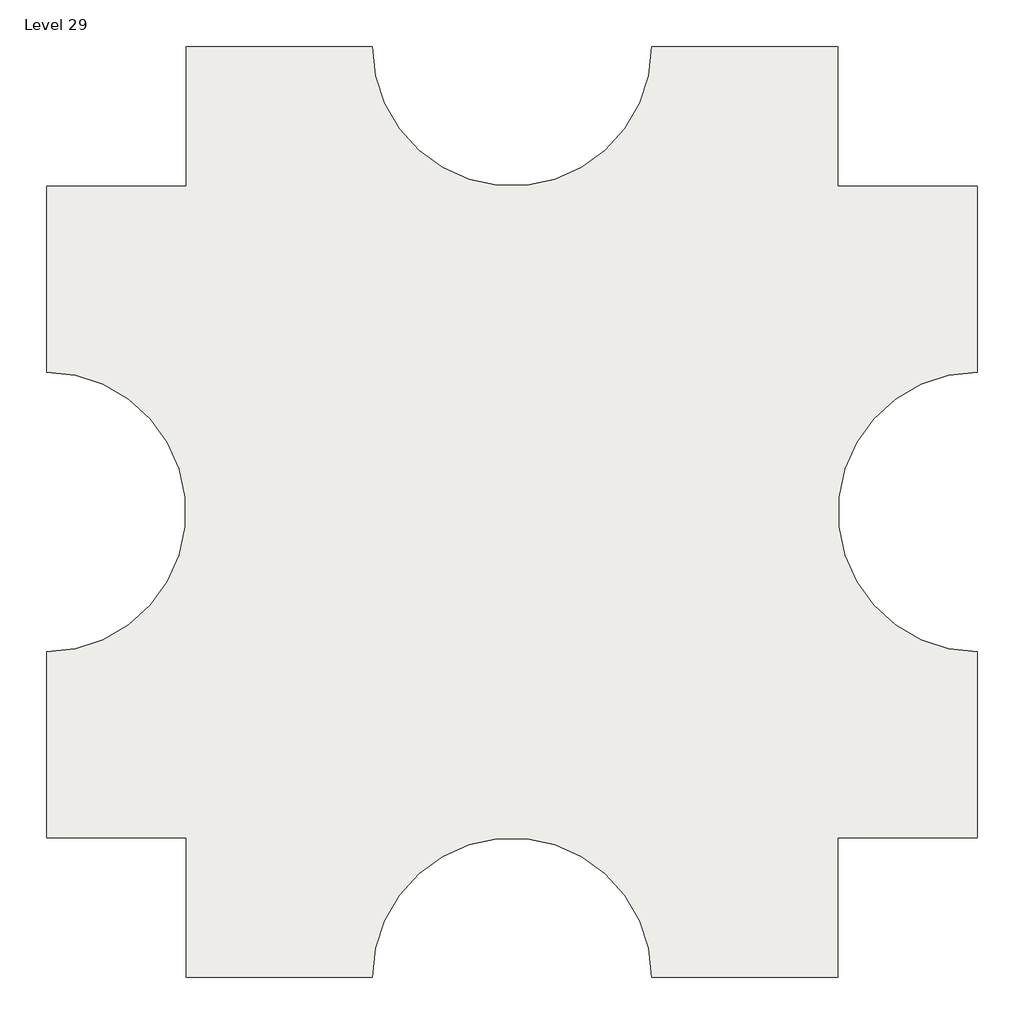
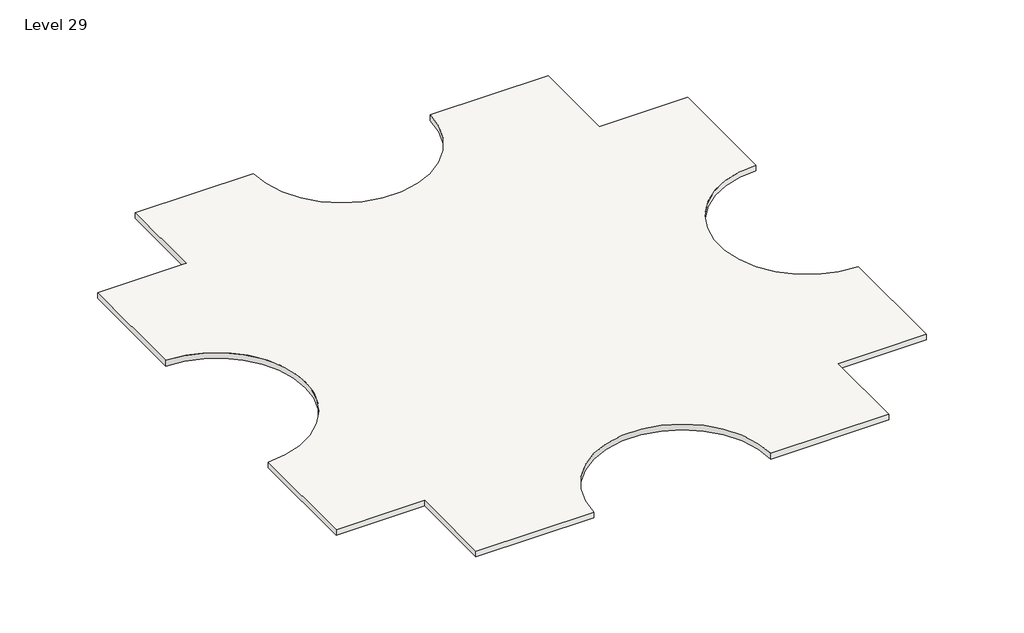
# One storey: 2 slabs.
"""IFC4 building model written with IfcOpenShell, lengths in millimetres."""

import ifcopenshell
import ifcopenshell.guid

model = None  # the IFC model being written
_history = None  # IfcOwnerHistory: only IFC2X3 demands one
_inside = {}  # id of a spatial element -> (the spatial element, [elements in it])
_under = {}  # id of a project, library or spatial element -> (it, [spatial elements below it])
_declared = {}  # id of a project -> (the project, [libraries it declares])
_typed = {}  # id of a type object -> (the type object, [elements of that type])
_made_of = {}  # id of a material, layer set ... -> (it, [elements and type objects made of it])


def new_model(schema):
    """Start an empty IFC model of exactly this schema.

    Asked for "IFC4X3", IfcOpenShell would pick the latest addendum, in which some entities
    have other attributes; the version numbers below select the first issue.
    IFC2X3 requires an IfcOwnerHistory on every rooted entity: one is made here for all.
    """
    global model, _history
    if schema == "IFC4X3":
        model = ifcopenshell.file(schema_version=(4, 3, 0, 0))
    else:
        model = ifcopenshell.file(schema=schema)
    _inside.clear()
    _under.clear()
    _declared.clear()
    _typed.clear()
    _made_of.clear()
    _history = None
    if model.schema == "IFC2X3":
        org = make("IfcOrganization", Name="unknown")
        user = make(
            "IfcPersonAndOrganization",
            ThePerson=make("IfcPerson", FamilyName="unknown"),
            TheOrganization=org,
        )
        app = make(
            "IfcApplication",
            ApplicationDeveloper=org,
            Version="unknown",
            ApplicationFullName="unknown",
            ApplicationIdentifier="unknown",
        )
        _history = make(
            "IfcOwnerHistory",
            OwningUser=user,
            OwningApplication=app,
            ChangeAction="ADDED",
            CreationDate=0,
        )
    return model


def make(cls, **values):
    """One entity of the class cls with the attributes given. An attribute that is None is left unset."""
    return model.create_entity(
        cls, **{name: value for name, value in values.items() if value is not None}
    )


def rooted(cls, **values):
    """An entity with a GlobalId (a new one), such as an element, a storey or a relation."""
    return make(cls, GlobalId=ifcopenshell.guid.new(), OwnerHistory=_history, **values)


def si_unit(unit_type, name, prefix=None):
    """IfcSIUnit, for example si_unit("LENGTHUNIT", "METRE", prefix="MILLI")."""
    return make("IfcSIUnit", UnitType=unit_type, Prefix=prefix, Name=name)


def assignment(units):
    """IfcUnitAssignment: the units of a project."""
    return None if units is None else make("IfcUnitAssignment", Units=units)


def point(xyz):
    """IfcCartesianPoint."""
    return None if xyz is None else make("IfcCartesianPoint", Coordinates=xyz)


def direction(xyz):
    """IfcDirection."""
    return None if xyz is None else make("IfcDirection", DirectionRatios=xyz)


def frame(location, z_axis=None, x_axis=None):
    """IfcAxis2Placement3D, a coordinate frame: its origin and axes. An axis left out is left unset."""
    return make(
        "IfcAxis2Placement3D",
        Location=point(location),
        Axis=direction(z_axis),
        RefDirection=direction(x_axis),
    )


def frame_2d(location, x_axis=None):
    """IfcAxis2Placement2D, a coordinate frame in the plane: its origin and x axis."""
    return make(
        "IfcAxis2Placement2D", Location=point(location), RefDirection=direction(x_axis)
    )


def origin():
    """The frame at (0, 0, 0) with its axes left unset."""
    return frame((0.0, 0.0, 0.0))


def place(relative_to, where):
    """IfcLocalPlacement: puts the frame where relative to a parent placement (None: the world)."""
    return make(
        "IfcLocalPlacement", PlacementRelTo=relative_to, RelativePlacement=where
    )


def context(
    kind, dimensions, precision=None, world=None, true_north=None, identifier=None
):
    """IfcGeometricRepresentationContext, for example the 3D "Model" context."""
    return make(
        "IfcGeometricRepresentationContext",
        ContextIdentifier=identifier,
        ContextType=kind,
        CoordinateSpaceDimension=dimensions,
        Precision=precision,
        WorldCoordinateSystem=world,
        TrueNorth=true_north,
    )


def project(units=None, contexts=None):
    """IfcProject with its units and contexts."""
    return rooted(
        "IfcProject",
        Name="project",
        RepresentationContexts=contexts,
        UnitsInContext=assignment(units),
    )


def spatial(cls, under=None, at=None, **own):
    """A site, building, storey or space (cls), placed at a placement, below another one or the project."""
    s = rooted(cls, ObjectPlacement=at, **own)
    if under is not None:
        _under.setdefault(under.id(), (under, []))[1].append(s)
    return s


def polyline(points):
    """IfcPolyline through the points."""
    return make("IfcPolyline", Points=[point(p) for p in points])


def circle_curve(where, radius):
    """IfcCircle in the frame where."""
    return make("IfcCircle", Position=where, Radius=radius)


def trimmed(basis, trim1, trim2, sense, master):
    """IfcTrimmedCurve: the piece of a basis curve between two trims."""
    return make(
        "IfcTrimmedCurve",
        BasisCurve=basis,
        Trim1=trim1,
        Trim2=trim2,
        SenseAgreement=sense,
        MasterRepresentation=master,
    )


def segment(curve, same_sense, transition):
    """IfcCompositeCurveSegment."""
    return make(
        "IfcCompositeCurveSegment",
        Transition=transition,
        SameSense=same_sense,
        ParentCurve=curve,
    )


def composite_curve(segments, self_intersect=None):
    """IfcCompositeCurve: segments joined end to end."""
    return make("IfcCompositeCurve", Segments=segments, SelfIntersect=self_intersect)


def outline(outer, holes=None, kind="AREA"):
    """IfcArbitraryClosedProfileDef: a profile drawn as a closed curve; with holes, ...WithVoids."""
    if holes is None:
        return make("IfcArbitraryClosedProfileDef", ProfileType=kind, OuterCurve=outer)
    return make(
        "IfcArbitraryProfileDefWithVoids",
        ProfileType=kind,
        OuterCurve=outer,
        InnerCurves=holes,
    )


def extrude(swept, where, along, depth):
    """IfcExtrudedAreaSolid: the profile swept, set in the frame where, extruded along a direction by depth."""
    return make(
        "IfcExtrudedAreaSolid",
        SweptArea=swept,
        Position=where,
        ExtrudedDirection=direction(along),
        Depth=depth,
    )


def shape(context_of_items, identifier, shape_type, items):
    """IfcShapeRepresentation: the items that make up one representation, for example the "Body"."""
    return make(
        "IfcShapeRepresentation",
        ContextOfItems=context_of_items,
        RepresentationIdentifier=identifier,
        RepresentationType=shape_type,
        Items=items,
    )


def made_of(thing, what):
    """Note that an element or type object is made of a material, layer set ...; save() writes the relation."""
    if what is not None:
        _made_of.setdefault(what.id(), (what, []))[1].append(thing)
    return thing


def element(
    cls,
    number,
    at=None,
    inside=None,
    cuts=None,
    type_object=None,
    material=None,
    context=None,
    identifier="Body",
    shape_type=None,
    held_by="IfcProductDefinitionShape",
    body=None,
    shapes=None,
    **own,
):
    """One element of the class cls, such as IfcWall. Its Tag is "e" and its number.

    at: its placement. inside: the storey or other place that contains it. cuts: it is an
    opening in that element (IfcRelVoidsElement). A single representation is given by context,
    identifier, shape_type and body (its items); several are given by shapes. held_by: the class
    of the entity that holds the representations. save() writes the other relations.
    """
    e = rooted(cls, Tag="e%d" % number, ObjectPlacement=at, **own)
    if body is not None:
        shapes = [shape(context, identifier, shape_type, body)]
    if shapes is not None:
        e.Representation = make(held_by, Representations=shapes)
    if inside is not None:
        _inside.setdefault(inside.id(), (inside, []))[1].append(e)
    if cuts is not None:
        rooted(
            "IfcRelVoidsElement", RelatingBuildingElement=cuts, RelatedOpeningElement=e
        )
    if type_object is not None:
        _typed.setdefault(type_object.id(), (type_object, []))[1].append(e)
    return made_of(e, material)


def aggregate(whole, parts):
    """IfcRelAggregates: a whole, such as a stair, and the parts it consists of."""
    return rooted("IfcRelAggregates", RelatingObject=whole, RelatedObjects=parts)


def save(model, path):
    """Write the relations noted so far, then the file.

    IfcRelAggregates (storeys below a building ...), IfcRelContainedInSpatialStructure (elements
    in a storey), IfcRelDefinesByType, IfcRelAssociatesMaterial and IfcRelDeclares: one each for
    every whole, place, type object, material and project.
    """
    for whole, parts in _under.values():
        aggregate(whole, parts)
    for where, things in _inside.values():
        rooted(
            "IfcRelContainedInSpatialStructure",
            RelatedElements=things,
            RelatingStructure=where,
        )
    for kind, things in _typed.values():
        rooted("IfcRelDefinesByType", RelatedObjects=things, RelatingType=kind)
    for what, things in _made_of.values():
        rooted("IfcRelAssociatesMaterial", RelatedObjects=things, RelatingMaterial=what)
    for by, libraries in _declared.values():
        rooted("IfcRelDeclares", RelatingContext=by, RelatedDefinitions=libraries)
    model.write(path)


model = new_model("IFC4")

# Units and contexts
model_context = context("Model", 3, world=origin())
ifc_project = project(units=[si_unit("LENGTHUNIT", "METRE", prefix="MILLI")], contexts=[model_context])

# Site, building, storey
site = spatial("IfcSite", under=ifc_project)
building = spatial("IfcBuilding", under=site)
storey = spatial("IfcBuildingStorey", under=building, Name="Level 29", Elevation=85344.0)

# Slabs
placement = place(None, origin())
element("IfcSlab", 1, ObjectType="Generic - 12\"", at=placement, inside=storey, context=model_context, shape_type="SweptSolid", body=[
    extrude(outline(composite_curve([segment(polyline([(-7150.3629456, 4479.6634547), (-7150.3629456, 9051.6634547), (-1054.3629456, 9051.6634547)]), True, "CONTINUOUS"), segment(trimmed(circle_curve(frame_2d((3517.6370544, 9051.6634547)), 4572.0), [point((-1054.3629456, 9051.6634547))], [point((8089.6370544, 9051.6634547))], True, "CARTESIAN"), True, "CONTINUOUS"), segment(polyline([(8089.6370544, 9051.6634547), (14185.6370544, 9051.6634547), (14185.6370544, 4479.6634547), (18757.6370544, 4479.6634547), (18757.6370544, -1616.3365453)]), True, "CONTINUOUS"), segment(trimmed(circle_curve(frame_2d((18757.6370544, -6188.3365453)), 4572.0), [point((18757.6370544, -1616.3365453))], [point((18757.6370544, -10760.3365453))], True, "CARTESIAN"), True, "CONTINUOUS"), segment(polyline([(18757.6370544, -10760.3365453), (18757.6370544, -16856.3365453), (14185.6370544, -16856.3365453), (14185.6370544, -21428.3365453), (8089.6370544, -21428.3365453)]), True, "CONTINUOUS"), segment(trimmed(circle_curve(frame_2d((3517.6370544, -21428.3365453)), 4572.0), [point((8089.6370544, -21428.3365453))], [point((-1054.3629456, -21428.3365453))], True, "CARTESIAN"), True, "CONTINUOUS"), segment(polyline([(-1054.3629456, -21428.3365453), (-7150.3629456, -21428.3365453), (-7150.3629456, -16856.3365453), (-11722.3629456, -16856.3365453), (-11722.3629456, -10760.3365453)]), True, "CONTINUOUS"), segment(trimmed(circle_curve(frame_2d((-11722.3629456, -6188.3365453)), 4572.0), [point((-11722.3629456, -10760.3365453))], [point((-11722.3629456, -1616.3365453))], True, "CARTESIAN"), True, "CONTINUOUS"), segment(polyline([(-11722.3629456, -1616.3365453), (-11722.3629456, 4479.6634547), (-7150.3629456, 4479.6634547)]), True, "CONTINUOUS")], self_intersect=False)), frame((0.0, 0.0, 85039.2), z_axis=(0.0, 0.0, 1.0), x_axis=(1.0, 0.0, 0.0)), (0.0, 0.0, 1.0), 304.8),
])
element("IfcSlab", 2, ObjectType="Generic - 12\"", at=placement, inside=storey, context=model_context, shape_type="SweptSolid", body=[
    extrude(outline(composite_curve([segment(polyline([(-7150.3629456, 4479.6634547), (-7150.3629456, 9051.6634547), (-1054.3629456, 9051.6634547)]), True, "CONTINUOUS"), segment(trimmed(circle_curve(frame_2d((3517.6370544, 9051.6634547)), 4572.0), [point((-1054.3629456, 9051.6634547))], [point((8089.6370544, 9051.6634547))], True, "CARTESIAN"), True, "CONTINUOUS"), segment(polyline([(8089.6370544, 9051.6634547), (14185.6370544, 9051.6634547), (14185.6370544, 4479.6634547), (18757.6370544, 4479.6634547), (18757.6370544, -1616.3365453)]), True, "CONTINUOUS"), segment(trimmed(circle_curve(frame_2d((18757.6370544, -6188.3365453)), 4572.0), [point((18757.6370544, -1616.3365453))], [point((18757.6370544, -10760.3365453))], True, "CARTESIAN"), True, "CONTINUOUS"), segment(polyline([(18757.6370544, -10760.3365453), (18757.6370544, -16856.3365453), (14185.6370544, -16856.3365453), (14185.6370544, -21428.3365453), (8089.6370544, -21428.3365453)]), True, "CONTINUOUS"), segment(trimmed(circle_curve(frame_2d((3517.6370544, -21428.3365453)), 4572.0), [point((8089.6370544, -21428.3365453))], [point((-1054.3629456, -21428.3365453))], True, "CARTESIAN"), True, "CONTINUOUS"), segment(polyline([(-1054.3629456, -21428.3365453), (-7150.3629456, -21428.3365453), (-7150.3629456, -16856.3365453), (-11722.3629456, -16856.3365453), (-11722.3629456, -10760.3365453)]), True, "CONTINUOUS"), segment(trimmed(circle_curve(frame_2d((-11722.3629456, -6188.3365453)), 4572.0), [point((-11722.3629456, -10760.3365453))], [point((-11722.3629456, -1616.3365453))], True, "CARTESIAN"), True, "CONTINUOUS"), segment(polyline([(-11722.3629456, -1616.3365453), (-11722.3629456, 4479.6634547), (-7150.3629456, 4479.6634547)]), True, "CONTINUOUS")], self_intersect=False)), frame((0.0, 0.0, 85039.2), z_axis=(0.0, 0.0, 1.0), x_axis=(1.0, 0.0, 0.0)), (0.0, 0.0, 1.0), 304.8),
])

save(model, "model.ifc")
